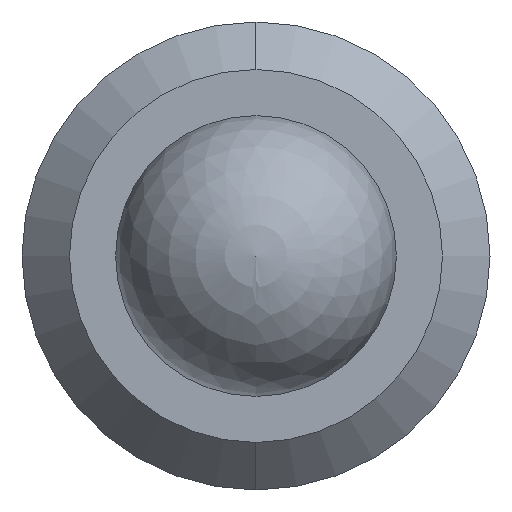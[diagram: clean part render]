
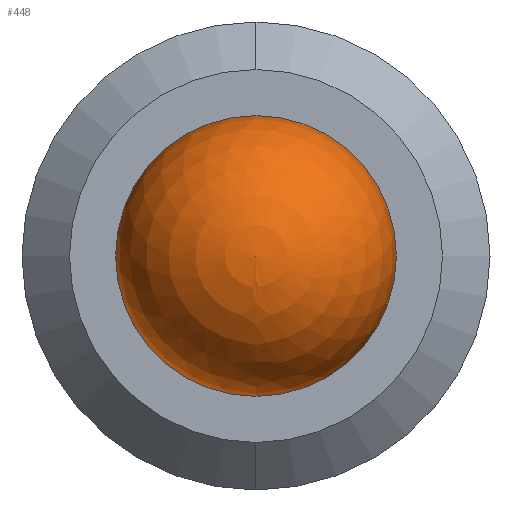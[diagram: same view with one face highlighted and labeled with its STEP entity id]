
A CAD part, left-side view. The second image highlights one B-rep face of the part: STEP entity #448.
In plain terms, the highlighted spherical face has radius 0.75 mm.
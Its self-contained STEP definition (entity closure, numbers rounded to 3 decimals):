
#10 = DIRECTION ( 'NONE',  ( -1., 0., 0. ) ) ;
#25 = SPHERICAL_SURFACE ( 'NONE', #301, 0.75 ) ;
#37 = CARTESIAN_POINT ( 'NONE',  ( 0., 0.75, 0. ) ) ;
#149 = ORIENTED_EDGE ( 'NONE', *, *, #477, .T. ) ;
#162 = CARTESIAN_POINT ( 'NONE',  ( 0., 0., 0. ) ) ;
#166 = CIRCLE ( 'NONE', #195, 0.75 ) ;
#173 = CARTESIAN_POINT ( 'NONE',  ( 0., -0.75, 0. ) ) ;
#195 = AXIS2_PLACEMENT_3D ( 'NONE', #162, #497, #221 ) ;
#198 = DIRECTION ( 'NONE',  ( 1., 0., 0. ) ) ;
#221 = DIRECTION ( 'NONE',  ( 0., 0., -1. ) ) ;
#295 = CARTESIAN_POINT ( 'NONE',  ( 0., 0., 0. ) ) ;
#301 = AXIS2_PLACEMENT_3D ( 'NONE', #427, #198, #337 ) ;
#331 = AXIS2_PLACEMENT_3D ( 'NONE', #295, #10, #339 ) ;
#337 = DIRECTION ( 'NONE',  ( 0., 0., -1. ) ) ;
#339 = DIRECTION ( 'NONE',  ( 0., 0., 1. ) ) ;
#353 = ORIENTED_EDGE ( 'NONE', *, *, #562, .F. ) ;
#398 = VERTEX_POINT ( 'NONE', #173 ) ;
#402 = EDGE_LOOP ( 'NONE', ( #353, #149 ) ) ;
#427 = CARTESIAN_POINT ( 'NONE',  ( 0., 0., 0. ) ) ;
#448 = ADVANCED_FACE ( 'NONE', ( #560 ), #25, .T. ) ;
#477 = EDGE_CURVE ( 'NONE', #601, #398, #508, .T. ) ;
#497 = DIRECTION ( 'NONE',  ( 1., 0., 0. ) ) ;
#508 = CIRCLE ( 'NONE', #331, 0.75 ) ;
#560 = FACE_OUTER_BOUND ( 'NONE', #402, .T. ) ;
#562 = EDGE_CURVE ( 'NONE', #601, #398, #166, .T. ) ;
#601 = VERTEX_POINT ( 'NONE', #37 ) ;
